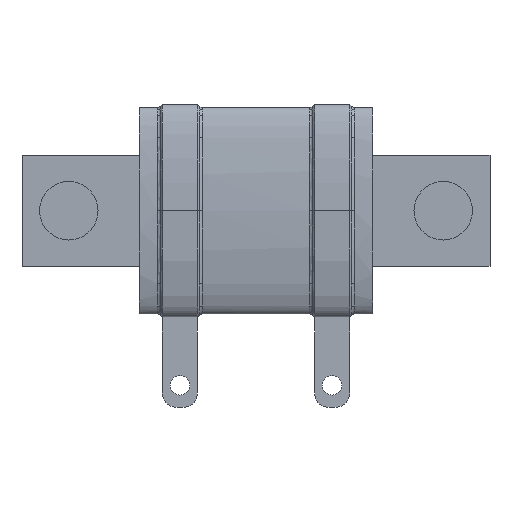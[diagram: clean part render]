
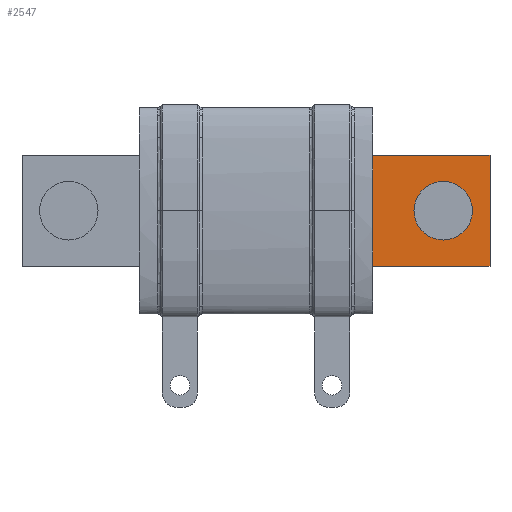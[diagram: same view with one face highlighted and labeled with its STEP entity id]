
A CAD part, front view. The second image highlights one B-rep face of the part: STEP entity #2547.
In plain terms, the highlighted planar face has unit normal (0, -1, 0).
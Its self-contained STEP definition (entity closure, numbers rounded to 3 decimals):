
#273 = EDGE_CURVE ( 'NONE', #4832, #2702, #2034, .T. ) ;
#284 = CARTESIAN_POINT ( 'NONE',  ( 15.875, -1.375, 7.54 ) ) ;
#460 = DIRECTION ( 'NONE',  ( 0., 0., -1. ) ) ;
#526 = EDGE_LOOP ( 'NONE', ( #5958, #5008 ) ) ;
#665 = LINE ( 'NONE', #2671, #2079 ) ;
#802 = ORIENTED_EDGE ( 'NONE', *, *, #1771, .F. ) ;
#895 = DIRECTION ( 'NONE',  ( 0., -1., 0. ) ) ;
#1026 = CARTESIAN_POINT ( 'NONE',  ( 31.755, -1.375, -7.54 ) ) ;
#1092 = EDGE_CURVE ( 'NONE', #3663, #2183, #665, .T. ) ;
#1223 = CARTESIAN_POINT ( 'NONE',  ( 31.755, -1.375, 7.54 ) ) ;
#1293 = ORIENTED_EDGE ( 'NONE', *, *, #1092, .T. ) ;
#1386 = EDGE_LOOP ( 'NONE', ( #5054, #802, #4703, #1293 ) ) ;
#1436 = DIRECTION ( 'NONE',  ( 0., 1., 0. ) ) ;
#1501 = PLANE ( 'NONE',  #4965 ) ;
#1587 = CARTESIAN_POINT ( 'NONE',  ( 31.755, -1.375, -7.54 ) ) ;
#1625 = VERTEX_POINT ( 'NONE', #1587 ) ;
#1712 = FACE_BOUND ( 'NONE', #526, .T. ) ;
#1771 = EDGE_CURVE ( 'NONE', #1625, #4448, #3522, .T. ) ;
#1909 = AXIS2_PLACEMENT_3D ( 'NONE', #4488, #895, #3997 ) ;
#2034 = CIRCLE ( 'NONE', #1909, 3.97 ) ;
#2079 = VECTOR ( 'NONE', #3164, 1000. ) ;
#2100 = EDGE_CURVE ( 'NONE', #2183, #4448, #3853, .T. ) ;
#2111 = DIRECTION ( 'NONE',  ( 0., 0., 1. ) ) ;
#2183 = VERTEX_POINT ( 'NONE', #284 ) ;
#2283 = CARTESIAN_POINT ( 'NONE',  ( 31.755, -1.375, 7.54 ) ) ;
#2491 = DIRECTION ( 'NONE',  ( 0., -1., 0. ) ) ;
#2523 = VECTOR ( 'NONE', #460, 1000. ) ;
#2543 = CIRCLE ( 'NONE', #5861, 3.97 ) ;
#2547 = ADVANCED_FACE ( 'NONE', ( #1712, #5913 ), #1501, .F. ) ;
#2572 = DIRECTION ( 'NONE',  ( 0., 0., 1. ) ) ;
#2671 = CARTESIAN_POINT ( 'NONE',  ( 31.755, -1.375, 7.54 ) ) ;
#2702 = VERTEX_POINT ( 'NONE', #5099 ) ;
#2715 = EDGE_CURVE ( 'NONE', #3663, #1625, #4869, .T. ) ;
#3164 = DIRECTION ( 'NONE',  ( -1., 0., 0. ) ) ;
#3297 = VECTOR ( 'NONE', #6091, 1000. ) ;
#3522 = LINE ( 'NONE', #1026, #3297 ) ;
#3540 = CARTESIAN_POINT ( 'NONE',  ( 25.4, -1.375, 3.97 ) ) ;
#3663 = VERTEX_POINT ( 'NONE', #2283 ) ;
#3853 = LINE ( 'NONE', #5856, #5765 ) ;
#3924 = CARTESIAN_POINT ( 'NONE',  ( 25.4, -1.375, 0. ) ) ;
#3997 = DIRECTION ( 'NONE',  ( 0., 0., 1. ) ) ;
#4079 = CARTESIAN_POINT ( 'NONE',  ( 15.875, -1.375, -7.54 ) ) ;
#4448 = VERTEX_POINT ( 'NONE', #4079 ) ;
#4488 = CARTESIAN_POINT ( 'NONE',  ( 25.4, -1.375, 0. ) ) ;
#4565 = EDGE_CURVE ( 'NONE', #2702, #4832, #2543, .T. ) ;
#4703 = ORIENTED_EDGE ( 'NONE', *, *, #2715, .F. ) ;
#4832 = VERTEX_POINT ( 'NONE', #3540 ) ;
#4869 = LINE ( 'NONE', #6303, #2523 ) ;
#4965 = AXIS2_PLACEMENT_3D ( 'NONE', #1223, #1436, #2111 ) ;
#5008 = ORIENTED_EDGE ( 'NONE', *, *, #4565, .F. ) ;
#5054 = ORIENTED_EDGE ( 'NONE', *, *, #2100, .T. ) ;
#5099 = CARTESIAN_POINT ( 'NONE',  ( 25.4, -1.375, -3.97 ) ) ;
#5361 = DIRECTION ( 'NONE',  ( 0., 0., -1. ) ) ;
#5765 = VECTOR ( 'NONE', #5361, 1000. ) ;
#5856 = CARTESIAN_POINT ( 'NONE',  ( 15.875, -1.375, 7.54 ) ) ;
#5861 = AXIS2_PLACEMENT_3D ( 'NONE', #3924, #2491, #2572 ) ;
#5913 = FACE_OUTER_BOUND ( 'NONE', #1386, .T. ) ;
#5958 = ORIENTED_EDGE ( 'NONE', *, *, #273, .F. ) ;
#6091 = DIRECTION ( 'NONE',  ( -1., 0., 0. ) ) ;
#6303 = CARTESIAN_POINT ( 'NONE',  ( 31.755, -1.375, 7.54 ) ) ;
